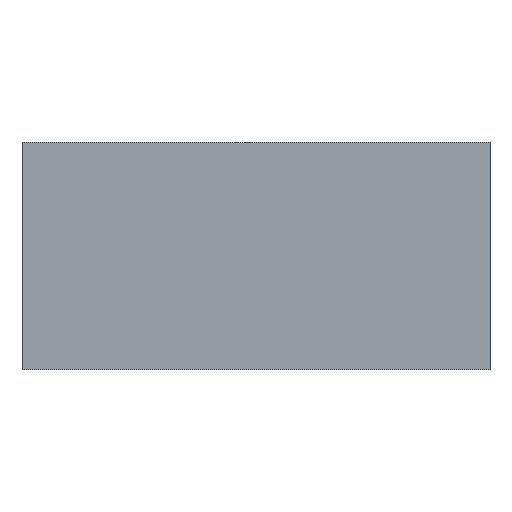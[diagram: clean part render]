
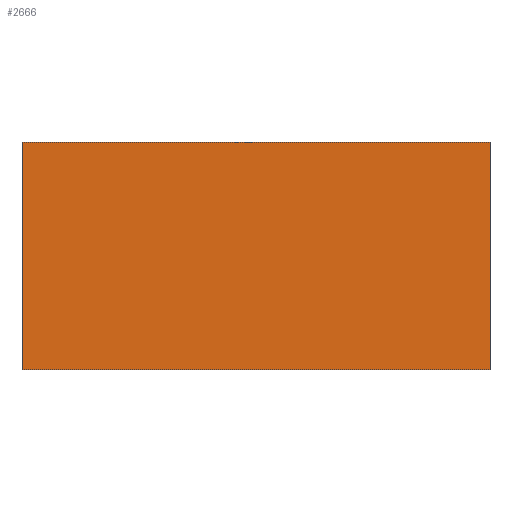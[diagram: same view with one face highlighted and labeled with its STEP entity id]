
A CAD part, front view. The second image highlights one B-rep face of the part: STEP entity #2666.
In plain terms, the highlighted planar face has unit normal (0, -1, 0).
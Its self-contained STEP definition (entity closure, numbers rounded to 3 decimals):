
#126=DIRECTION('',(1.,0.,0.));
#127=VECTOR('',#126,72.);
#128=CARTESIAN_POINT('',(-36.,0.,-17.5));
#129=LINE('',#128,#127);
#265=DIRECTION('',(1.,0.,0.));
#266=VECTOR('',#265,72.);
#267=CARTESIAN_POINT('',(-36.,0.,17.5));
#268=LINE('',#267,#266);
#420=DIRECTION('',(0.,0.,1.));
#421=VECTOR('',#420,35.);
#422=CARTESIAN_POINT('',(36.,0.,-17.5));
#423=LINE('',#422,#421);
#443=DIRECTION('',(0.,0.,1.));
#444=VECTOR('',#443,35.);
#445=CARTESIAN_POINT('',(-36.,0.,-17.5));
#446=LINE('',#445,#444);
#1951=CARTESIAN_POINT('',(-36.,0.,-17.5));
#1953=VERTEX_POINT('',#1951);
#1954=CARTESIAN_POINT('',(36.,0.,-17.5));
#1955=VERTEX_POINT('',#1954);
#1959=CARTESIAN_POINT('',(-36.,0.,17.5));
#1961=VERTEX_POINT('',#1959);
#1962=CARTESIAN_POINT('',(36.,0.,17.5));
#1963=VERTEX_POINT('',#1962);
#2654=CARTESIAN_POINT('',(-36.,0.,-17.5));
#2655=DIRECTION('',(0.,-1.,0.));
#2656=DIRECTION('',(1.,0.,0.));
#2657=AXIS2_PLACEMENT_3D('',#2654,#2655,#2656);
#2658=PLANE('',#2657);
#2659=ORIENTED_EDGE('',*,*,#2225,.F.);
#2661=ORIENTED_EDGE('',*,*,#2660,.T.);
#2662=ORIENTED_EDGE('',*,*,#2337,.T.);
#2663=ORIENTED_EDGE('',*,*,#2629,.F.);
#2664=EDGE_LOOP('',(#2659,#2661,#2662,#2663));
#2665=FACE_OUTER_BOUND('',#2664,.F.);
#2666=ADVANCED_FACE('',(#2665),#2658,.T.);
#2225=EDGE_CURVE('',#1953,#1955,#129,.T.);
#2337=EDGE_CURVE('',#1961,#1963,#268,.T.);
#2629=EDGE_CURVE('',#1955,#1963,#423,.T.);
#2660=EDGE_CURVE('',#1953,#1961,#446,.T.);
